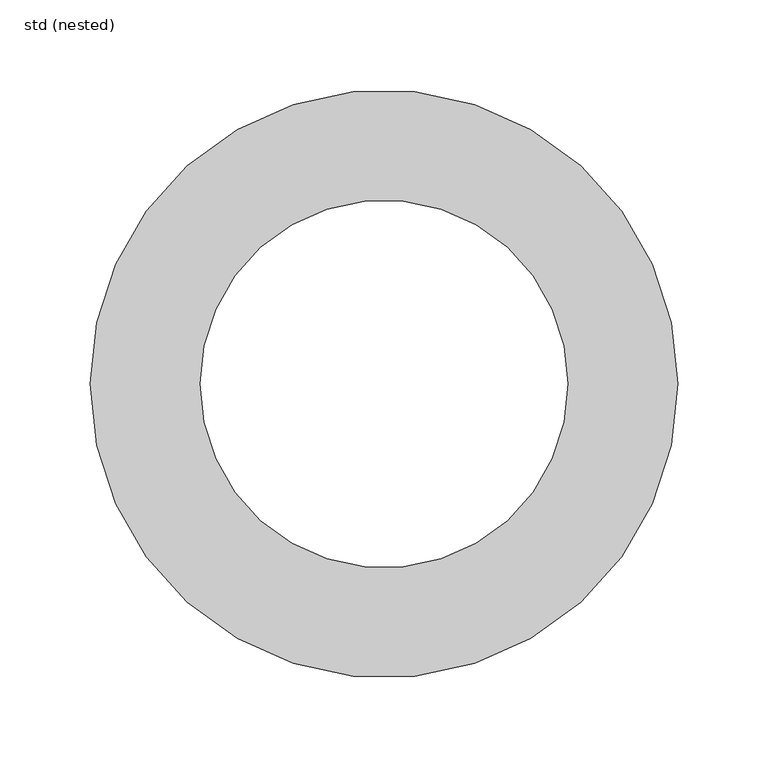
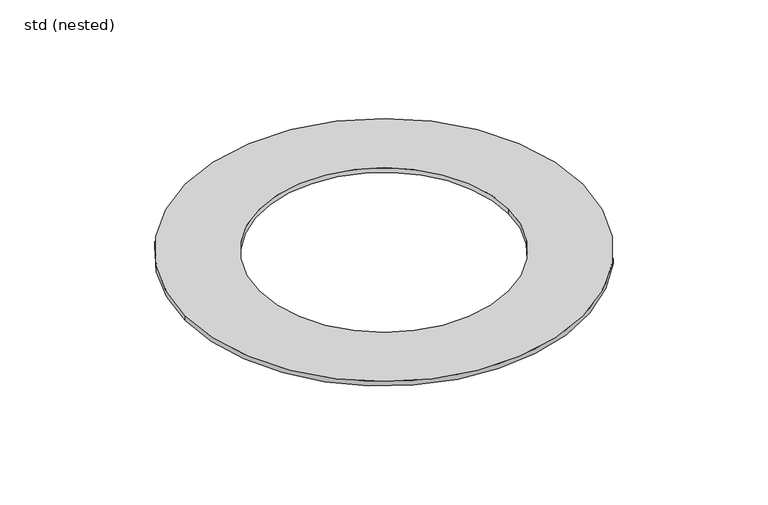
"""IFC4 building model written with IfcOpenShell, lengths in millimetres: sanitary terminal geometry, ZZZ_do not use_PF_GEN_flange seal for Passavant Spin_ACO : std (nested)."""

from ifc_helpers import new_model, si_unit, point, origin, origin_with_axes, origin_2d, place, context, project, spatial, circle_curve, trimmed, segment, composite_curve, outline, extrude, source, transform, mapped, element, save


def std_nested_7d422cc5(model_context):
    return source(origin(), model_context, "Body", "SweptSolid", [
        extrude(outline(composite_curve([segment(trimmed(circle_curve(origin_2d(), 163.0), [point((-163.0, 0.0))], [point((163.0, 0.0))], False, "CARTESIAN"), True, "CONTINUOUS"), segment(trimmed(circle_curve(origin_2d(), 163.0), [point((163.0, 0.0))], [point((-163.0, 0.0))], False, "CARTESIAN"), True, "CONTINUOUS")], self_intersect=False), holes=[composite_curve([segment(trimmed(circle_curve(origin_2d(), 102.0), [point((-102.0, 0.0))], [point((102.0, 0.0))], True, "CARTESIAN"), True, "CONTINUOUS"), segment(trimmed(circle_curve(origin_2d(), 102.0), [point((102.0, 0.0))], [point((-102.0, 0.0))], True, "CARTESIAN"), True, "CONTINUOUS")], self_intersect=False)]), origin_with_axes(), (0.0, 0.0, 1.0), 4.0),
    ])


if __name__ == "__main__":
    model = new_model("IFC4")
    model_context = context("Model", 3, world=origin())
    ifc_project = project(units=[si_unit("LENGTHUNIT", "METRE", prefix="MILLI")], contexts=[model_context])
    site = spatial("IfcSite", under=ifc_project)
    building = spatial("IfcBuilding", under=site)
    placement = place(None, origin())
    std_nested_shape = std_nested_7d422cc5(model_context)
    element("IfcSanitaryTerminal", 1, ObjectType="ZZZ_do not use_PF_GEN_flange seal for Passavant Spin_ACO : std (nested)", at=placement, inside=building, context=model_context, shape_type="MappedRepresentation", body=[
        mapped(std_nested_shape, transform((0.0, 0.0, 0.0), x_axis=(1.0, 0.0, 0.0), y_axis=(0.0, 1.0, 0.0), z_axis=(0.0, 0.0, 1.0))),
    ])
    save(model, "model.ifc")
